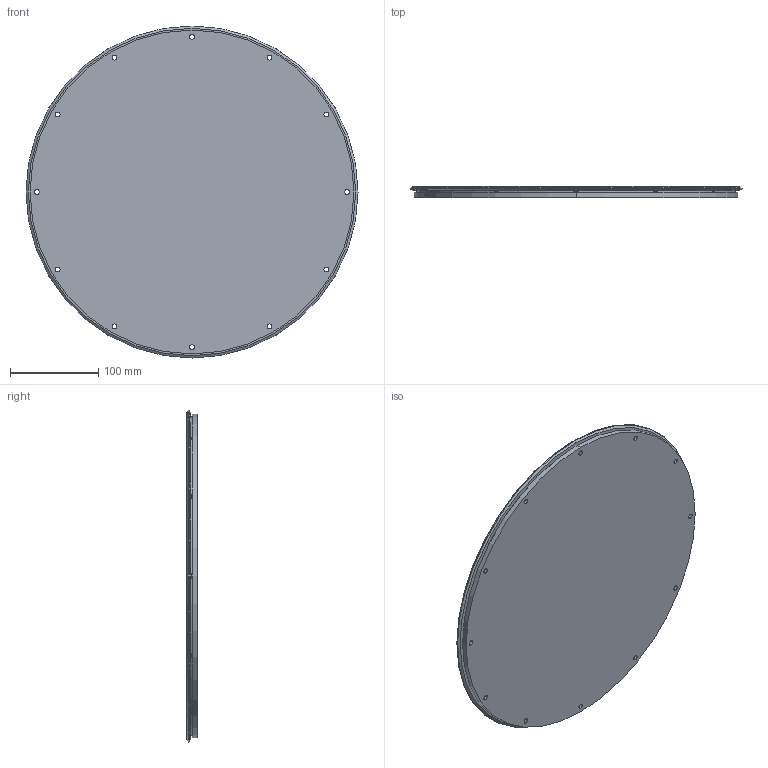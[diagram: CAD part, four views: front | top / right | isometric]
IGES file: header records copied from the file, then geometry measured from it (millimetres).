
Start section: 3D InterOp IGES (v. 2020 1.0.1), Spatial Corp. Copyright (c) 1999-2017.
Global section: file name: rd25_351_l.igs; native system: Spatial Corp.; preprocessor: 3D InterOp ACIS/IGES; author: TraceParts; organization: TraceParts S.A.; date: 20220624.041832; units: millimetre
Bounding box: 375.61 x 12.25 x 375.61 mm (x, y, z)
Surface area: 247935.1 mm2 (no closed solid volume)
Topology: 0 solids, 0 shells, 83 faces, 376 edges, 376 vertices
Faces by surface type: revolution 66, extrusion 17
